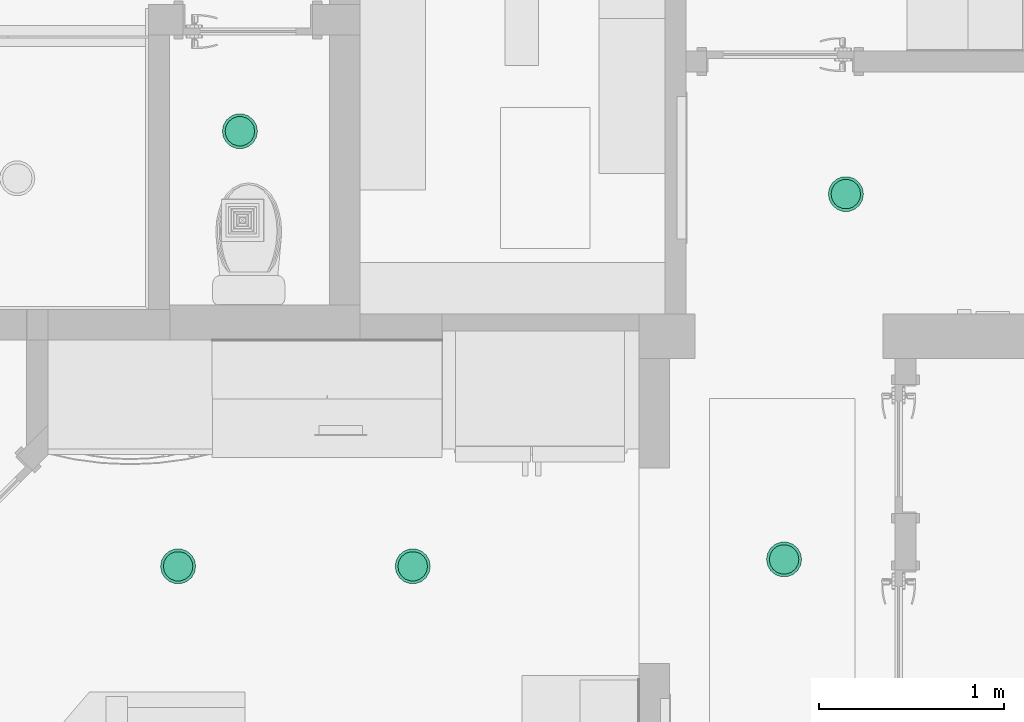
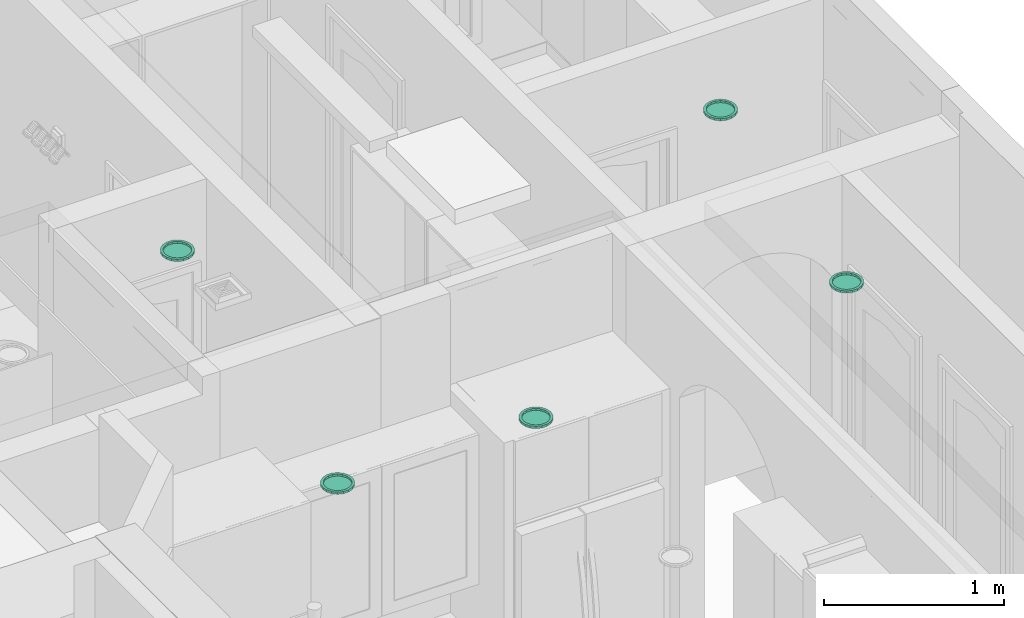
# One storey, part 50 of 77: 5 flow terminals.
"""IFC2X3 building model written with IfcOpenShell, lengths in inches."""

import ifcopenshell
import ifcopenshell.guid

model = None  # the IFC model being written
_history = None  # IfcOwnerHistory: only IFC2X3 demands one
_inside = {}  # id of a spatial element -> (the spatial element, [elements in it])
_under = {}  # id of a project, library or spatial element -> (it, [spatial elements below it])
_declared = {}  # id of a project -> (the project, [libraries it declares])
_typed = {}  # id of a type object -> (the type object, [elements of that type])
_made_of = {}  # id of a material, layer set ... -> (it, [elements and type objects made of it])


def new_model(schema):
    """Start an empty IFC model of exactly this schema.

    Asked for "IFC4X3", IfcOpenShell would pick the latest addendum, in which some entities
    have other attributes; the version numbers below select the first issue.
    IFC2X3 requires an IfcOwnerHistory on every rooted entity: one is made here for all.
    """
    global model, _history
    if schema == "IFC4X3":
        model = ifcopenshell.file(schema_version=(4, 3, 0, 0))
    else:
        model = ifcopenshell.file(schema=schema)
    _inside.clear()
    _under.clear()
    _declared.clear()
    _typed.clear()
    _made_of.clear()
    _history = None
    if model.schema == "IFC2X3":
        org = make("IfcOrganization", Name="unknown")
        user = make(
            "IfcPersonAndOrganization",
            ThePerson=make("IfcPerson", FamilyName="unknown"),
            TheOrganization=org,
        )
        app = make(
            "IfcApplication",
            ApplicationDeveloper=org,
            Version="unknown",
            ApplicationFullName="unknown",
            ApplicationIdentifier="unknown",
        )
        _history = make(
            "IfcOwnerHistory",
            OwningUser=user,
            OwningApplication=app,
            ChangeAction="ADDED",
            CreationDate=0,
        )
    return model


def make(cls, **values):
    """One entity of the class cls with the attributes given. An attribute that is None is left unset."""
    return model.create_entity(
        cls, **{name: value for name, value in values.items() if value is not None}
    )


def entity(cls, *values):
    """Any entity or typed value of the class cls, its attributes in the order of the schema. None: left unset."""
    e = model.create_entity(cls)
    for i, value in enumerate(values):
        if value is not None:
            e[i] = value
    return e


def rooted(cls, **values):
    """An entity with a GlobalId (a new one), such as an element, a storey or a relation."""
    return make(cls, GlobalId=ifcopenshell.guid.new(), OwnerHistory=_history, **values)


def si_unit(unit_type, name, prefix=None):
    """IfcSIUnit, for example si_unit("LENGTHUNIT", "METRE", prefix="MILLI")."""
    return make("IfcSIUnit", UnitType=unit_type, Prefix=prefix, Name=name)


def converted_unit(unit_type, name, factor, base, dimensions=None, offset=None):
    """IfcConversionBasedUnit, such as the inch: factor (a typed value) times the base unit."""
    return make(
        "IfcConversionBasedUnit"
        if offset is None
        else "IfcConversionBasedUnitWithOffset",
        ConversionOffset=offset,
        Dimensions=None
        if dimensions is None
        else entity("IfcDimensionalExponents", *dimensions),
        UnitType=unit_type,
        Name=name,
        ConversionFactor=make(
            "IfcMeasureWithUnit", ValueComponent=factor, UnitComponent=base
        ),
    )


def derived_unit(unit_type, elements):
    """IfcDerivedUnit: a product of units, each with its exponent."""
    return make(
        "IfcDerivedUnit",
        Elements=[
            make("IfcDerivedUnitElement", Unit=unit, Exponent=power)
            for unit, power in elements
        ],
        UnitType=unit_type,
    )


def money_unit(currency):
    """IfcMonetaryUnit."""
    return make("IfcMonetaryUnit", Currency=currency)


def assignment(units):
    """IfcUnitAssignment: the units of a project."""
    return None if units is None else make("IfcUnitAssignment", Units=units)


def point(xyz):
    """IfcCartesianPoint."""
    return None if xyz is None else make("IfcCartesianPoint", Coordinates=xyz)


def direction(xyz):
    """IfcDirection."""
    return None if xyz is None else make("IfcDirection", DirectionRatios=xyz)


def frame(location, z_axis=None, x_axis=None):
    """IfcAxis2Placement3D, a coordinate frame: its origin and axes. An axis left out is left unset."""
    return make(
        "IfcAxis2Placement3D",
        Location=point(location),
        Axis=direction(z_axis),
        RefDirection=direction(x_axis),
    )


def origin_with_axes():
    """The frame at (0, 0, 0) with the z axis (0, 0, 1) and the x axis (1, 0, 0) written out."""
    return frame((0.0, 0.0, 0.0), z_axis=(0.0, 0.0, 1.0), x_axis=(1.0, 0.0, 0.0))


def place(relative_to, where):
    """IfcLocalPlacement: puts the frame where relative to a parent placement (None: the world)."""
    return make(
        "IfcLocalPlacement", PlacementRelTo=relative_to, RelativePlacement=where
    )


def context(
    kind, dimensions, precision=None, world=None, true_north=None, identifier=None
):
    """IfcGeometricRepresentationContext, for example the 3D "Model" context."""
    return make(
        "IfcGeometricRepresentationContext",
        ContextIdentifier=identifier,
        ContextType=kind,
        CoordinateSpaceDimension=dimensions,
        Precision=precision,
        WorldCoordinateSystem=world,
        TrueNorth=true_north,
    )


def subcontext(parent, identifier, kind, view, scale=None):
    """IfcGeometricRepresentationSubContext, for example "Body" below "Model"."""
    return make(
        "IfcGeometricRepresentationSubContext",
        ContextIdentifier=identifier,
        ContextType=kind,
        ParentContext=parent,
        TargetScale=scale,
        TargetView=view,
    )


def project(units=None, contexts=None):
    """IfcProject with its units and contexts."""
    return rooted(
        "IfcProject",
        Name="project",
        RepresentationContexts=contexts,
        UnitsInContext=assignment(units),
    )


def spatial(cls, under=None, at=None, **own):
    """A site, building, storey or space (cls), placed at a placement, below another one or the project."""
    s = rooted(cls, ObjectPlacement=at, **own)
    if under is not None:
        _under.setdefault(under.id(), (under, []))[1].append(s)
    return s


def faces_of(points, faces, orient=None, outer=None):
    """IfcFace entities. A face is a list of loops; a loop is a list of indices into points, from 0.

    orient and outer hold one flag for each loop. By default every Orientation is true, the
    first loop of a face is its IfcFaceOuterBound and the others are IfcFaceBound.
    """
    made = []
    for i, loops in enumerate(faces):
        bounds = []
        for j, loop in enumerate(loops):
            is_outer = j == 0 if outer is None else outer[i][j]
            bounds.append(
                make(
                    "IfcFaceOuterBound" if is_outer else "IfcFaceBound",
                    Bound=make("IfcPolyLoop", Polygon=[points[k] for k in loop]),
                    Orientation=True if orient is None else orient[i][j],
                )
            )
        made.append(make("IfcFace", Bounds=bounds))
    return made


def open_shell(faces, orient=None, outer=None):
    """The faces of one IfcOpenShell. surface_model builds it on its shared points."""
    return ("IfcOpenShell", faces, orient, outer)


def faceted_brep(points, faces, orient=None, outer=None, voids=None):
    """IfcFacetedBrep: a solid bounded by flat faces; with voids (closed shells), ...WithVoids."""
    shared = [point(p) for p in points]
    hull = make("IfcClosedShell", CfsFaces=faces_of(shared, faces, orient, outer))
    if voids is None:
        return make("IfcFacetedBrep", Outer=hull)
    return make(
        "IfcFacetedBrepWithVoids",
        Outer=hull,
        Voids=[
            make(cls, CfsFaces=faces_of(shared, fs, o, b)) for cls, fs, o, b in voids
        ],
    )


def surface_model(cls, points, shells):
    """IfcFaceBasedSurfaceModel or IfcShellBasedSurfaceModel (cls): surfaces that need not close."""
    shared = [point(p) for p in points]
    made = [make(c, CfsFaces=faces_of(shared, fs, o, b)) for c, fs, o, b in shells]
    if cls == "IfcFaceBasedSurfaceModel":
        return make(cls, FbsmFaces=made)
    return make(cls, SbsmBoundary=made)


def shape(context_of_items, identifier, shape_type, items):
    """IfcShapeRepresentation: the items that make up one representation, for example the "Body"."""
    return make(
        "IfcShapeRepresentation",
        ContextOfItems=context_of_items,
        RepresentationIdentifier=identifier,
        RepresentationType=shape_type,
        Items=items,
    )


def source(mapping_origin, context_of_items, identifier, shape_type, items):
    """IfcRepresentationMap: a shape defined once, which mapped items show again and again."""
    return make(
        "IfcRepresentationMap",
        MappingOrigin=mapping_origin,
        MappedRepresentation=shape(context_of_items, identifier, shape_type, items),
    )


def transform(
    local_origin,
    x_axis=None,
    y_axis=None,
    z_axis=None,
    scale=None,
    scale2=None,
    scale3=None,
    uniform=True,
):
    """IfcCartesianTransformationOperator3D, or its non-uniform kind. x_axis, y_axis, z_axis: its Axis1, 2, 3."""
    if uniform:
        return make(
            "IfcCartesianTransformationOperator3D",
            Axis1=direction(x_axis),
            Axis2=direction(y_axis),
            LocalOrigin=point(local_origin),
            Scale=scale,
            Axis3=direction(z_axis),
        )
    return make(
        "IfcCartesianTransformationOperator3DnonUniform",
        Axis1=direction(x_axis),
        Axis2=direction(y_axis),
        LocalOrigin=point(local_origin),
        Scale=scale,
        Axis3=direction(z_axis),
        Scale2=scale2,
        Scale3=scale3,
    )


def mapped(mapping_source, mapping_target):
    """IfcMappedItem: shows the shape of a source again, moved by a transform."""
    return make(
        "IfcMappedItem", MappingSource=mapping_source, MappingTarget=mapping_target
    )


def made_of(thing, what):
    """Note that an element or type object is made of a material, layer set ...; save() writes the relation."""
    if what is not None:
        _made_of.setdefault(what.id(), (what, []))[1].append(thing)
    return thing


def type_object(cls, material=None, **own):
    """A type object (cls), such as IfcWallType, which elements share."""
    return made_of(rooted(cls, **own), material)


def element(
    cls,
    number,
    at=None,
    inside=None,
    cuts=None,
    type_object=None,
    material=None,
    context=None,
    identifier="Body",
    shape_type=None,
    held_by="IfcProductDefinitionShape",
    body=None,
    shapes=None,
    **own,
):
    """One element of the class cls, such as IfcWall. Its Tag is "e" and its number.

    at: its placement. inside: the storey or other place that contains it. cuts: it is an
    opening in that element (IfcRelVoidsElement). A single representation is given by context,
    identifier, shape_type and body (its items); several are given by shapes. held_by: the class
    of the entity that holds the representations. save() writes the other relations.
    """
    e = rooted(cls, Tag="e%d" % number, ObjectPlacement=at, **own)
    if body is not None:
        shapes = [shape(context, identifier, shape_type, body)]
    if shapes is not None:
        e.Representation = make(held_by, Representations=shapes)
    if inside is not None:
        _inside.setdefault(inside.id(), (inside, []))[1].append(e)
    if cuts is not None:
        rooted(
            "IfcRelVoidsElement", RelatingBuildingElement=cuts, RelatedOpeningElement=e
        )
    if type_object is not None:
        _typed.setdefault(type_object.id(), (type_object, []))[1].append(e)
    return made_of(e, material)


def aggregate(whole, parts):
    """IfcRelAggregates: a whole, such as a stair, and the parts it consists of."""
    return rooted("IfcRelAggregates", RelatingObject=whole, RelatedObjects=parts)


def save(model, path):
    """Write the relations noted so far, then the file.

    IfcRelAggregates (storeys below a building ...), IfcRelContainedInSpatialStructure (elements
    in a storey), IfcRelDefinesByType, IfcRelAssociatesMaterial and IfcRelDeclares: one each for
    every whole, place, type object, material and project.
    """
    for whole, parts in _under.values():
        aggregate(whole, parts)
    for where, things in _inside.values():
        rooted(
            "IfcRelContainedInSpatialStructure",
            RelatedElements=things,
            RelatingStructure=where,
        )
    for kind, things in _typed.values():
        rooted("IfcRelDefinesByType", RelatedObjects=things, RelatingType=kind)
    for what, things in _made_of.values():
        rooted("IfcRelAssociatesMaterial", RelatedObjects=things, RelatingMaterial=what)
    for by, libraries in _declared.values():
        rooted("IfcRelDeclares", RelatingContext=by, RelatedDefinitions=libraries)
    model.write(path)


model = new_model("IFC2X3")

# Units and contexts
model_context = context("Model", 3, precision=0.000393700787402, world=origin_with_axes(), true_north=direction((0.0, 1.0)))
body_context = subcontext(model_context, "Body", "Model", "MODEL_VIEW")
ifc_project = project(units=[converted_unit("LENGTHUNIT", "INCH", entity("IfcPositiveLengthMeasure", 0.0254), si_unit("LENGTHUNIT", "METRE"), dimensions=[1, 0, 0, 0, 0, 0, 0]), converted_unit("AREAUNIT", "SQUARE_FOOT", entity("IfcPositiveLengthMeasure", 0.09290304), si_unit("AREAUNIT", "SQUARE_METRE"), dimensions=[2, 0, 0, 0, 0, 0, 0]), si_unit("PLANEANGLEUNIT", "RADIAN"), si_unit("SOLIDANGLEUNIT", "STERADIAN"), money_unit("USD"), converted_unit("TIMEUNIT", "Year", entity("IfcTimeMeasure", 31556926.0), si_unit("TIMEUNIT", "SECOND"), dimensions=[0, 0, 1, 0, 0, 0, 0]), si_unit("MASSUNIT", "GRAM", prefix="KILO"), si_unit("THERMODYNAMICTEMPERATUREUNIT", "DEGREE_CELSIUS"), si_unit("LUMINOUSINTENSITYUNIT", "LUMEN"), si_unit("ENERGYUNIT", "JOULE", prefix="MEGA"), derived_unit("THERMALCONDUCTANCEUNIT", [(si_unit("POWERUNIT", "WATT"), 1), (si_unit("LENGTHUNIT", "METRE"), -1), (si_unit("THERMODYNAMICTEMPERATUREUNIT", "KELVIN"), -1)]), derived_unit("SPECIFICHEATCAPACITYUNIT", [(si_unit("ENERGYUNIT", "JOULE"), 1), (si_unit("MASSUNIT", "GRAM", prefix="KILO"), -1), (si_unit("THERMODYNAMICTEMPERATUREUNIT", "KELVIN"), -1)]), derived_unit("MASSDENSITYUNIT", [(si_unit("MASSUNIT", "GRAM", prefix="KILO"), 1), (si_unit("VOLUMEUNIT", "CUBIC_METRE"), -1)])], contexts=[model_context])

# Site, building, storey
site_placement = place(None, origin_with_axes())
site = spatial("IfcSite", under=ifc_project, at=site_placement, Name="Site", CompositionType="ELEMENT")
building_placement = place(site_placement, origin_with_axes())
building = spatial("IfcBuilding", under=site, at=building_placement, Name="Building", CompositionType="ELEMENT")
storey_placement = place(building_placement, frame((0.0, 0.0, 127.952755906), z_axis=(0.0, 0.0, 1.0), x_axis=(1.0, 0.0, 0.0)))
storey = spatial("IfcBuildingStorey", under=building, at=storey_placement, Name="Second Floor", CompositionType="ELEMENT", Elevation=127.953)

# Flow terminals
light_fixture_type = type_object("IfcLightFixtureType", Name="Recessed Spot 25", PredefinedType="NOTDEFINED")
shared_shape = source(origin_with_axes(), body_context, "Body", "SurfaceModel", [
    faceted_brep([(3.74015748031, 0.0, -0.590551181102), (3.51459838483, 1.27920919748, -0.590551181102), (3.51459838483, 1.27920919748, 0.0), (3.74015748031, 0.0, 0.0), (3.51459838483, -1.27920919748, -0.590551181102), (2.86512685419, -2.40412688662, -0.590551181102), (1.87007874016, -3.23907139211, -0.590551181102), (0.649471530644, -3.6833360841, -0.590551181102), (-0.649471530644, -3.6833360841, -0.590551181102), (-1.87007874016, -3.23907139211, -0.590551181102), (-2.86512685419, -2.40412688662, -0.590551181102), (-3.51459838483, -1.27920919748, -0.590551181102), (-3.74015748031, 0.0, -0.590551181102), (-3.51459838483, 1.27920919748, -0.590551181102), (-2.86512685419, 2.40412688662, -0.590551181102), (-1.87007874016, 3.23907139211, -0.590551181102), (-0.649471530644, 3.6833360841, -0.590551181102), (0.649471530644, 3.6833360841, -0.590551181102), (1.87007874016, 3.23907139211, -0.590551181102), (2.86512685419, 2.40412688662, -0.590551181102), (3.14960629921, 0.0, -0.590551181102), (2.95966179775, 1.07722879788, -0.590551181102), (2.41273840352, 2.02452790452, -0.590551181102), (1.57480314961, 2.72763906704, -0.590551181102), (0.546923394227, 3.1017567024, -0.590551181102), (-0.546923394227, 3.1017567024, -0.590551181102), (-1.57480314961, 2.72763906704, -0.590551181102), (-2.41273840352, 2.02452790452, -0.590551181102), (-2.95966179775, 1.07722879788, -0.590551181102), (-3.14960629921, 0.0, -0.590551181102), (-2.95966179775, -1.07722879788, -0.590551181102), (-2.41273840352, -2.02452790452, -0.590551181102), (-1.57480314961, -2.72763906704, -0.590551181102), (-0.546923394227, -3.1017567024, -0.590551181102), (0.546923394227, -3.1017567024, -0.590551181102), (1.57480314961, -2.72763906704, -0.590551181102), (2.41273840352, -2.02452790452, -0.590551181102), (2.95966179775, -1.07722879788, -0.590551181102), (2.86512685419, 2.40412688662, 0.0), (1.87007874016, 3.23907139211, 0.0), (0.649471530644, 3.6833360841, 0.0), (-0.649471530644, 3.6833360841, 0.0), (-1.87007874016, 3.23907139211, 0.0), (-2.86512685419, 2.40412688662, 0.0), (-3.51459838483, 1.27920919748, 0.0), (-3.74015748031, 0.0, 0.0), (-3.51459838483, -1.27920919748, 0.0), (-2.86512685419, -2.40412688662, 0.0), (-1.87007874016, -3.23907139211, 0.0), (-0.649471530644, -3.6833360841, 0.0), (0.649471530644, -3.6833360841, 0.0), (1.87007874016, -3.23907139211, 0.0), (2.86512685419, -2.40412688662, 0.0), (3.51459838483, -1.27920919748, 0.0), (3.14960629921, 0.0, 0.0), (2.95966179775, -1.07722879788, 0.0), (2.41273840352, -2.02452790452, 0.0), (1.57480314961, -2.72763906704, 0.0), (0.546923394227, -3.1017567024, 0.0), (-0.546923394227, -3.1017567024, 0.0), (-1.57480314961, -2.72763906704, 0.0), (-2.41273840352, -2.02452790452, 0.0), (-2.95966179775, -1.07722879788, 0.0), (-3.14960629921, 0.0, 0.0), (-2.95966179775, 1.07722879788, 0.0), (-2.41273840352, 2.02452790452, 0.0), (-1.57480314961, 2.72763906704, 0.0), (-0.546923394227, 3.1017567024, 0.0), (0.546923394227, 3.1017567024, 0.0), (1.57480314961, 2.72763906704, 0.0), (2.41273840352, 2.02452790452, 0.0), (2.95966179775, 1.07722879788, 0.0)], [[[0, 1, 2, 3]], [[0, 4, 5, 6, 7, 8, 9, 10, 11, 12, 13, 14, 15, 16, 17, 18, 19, 1], [20, 21, 22, 23, 24, 25, 26, 27, 28, 29, 30, 31, 32, 33, 34, 35, 36, 37]], [[1, 19, 38, 2]], [[3, 2, 38, 39, 40, 41, 42, 43, 44, 45, 46, 47, 48, 49, 50, 51, 52, 53], [54, 55, 56, 57, 58, 59, 60, 61, 62, 63, 64, 65, 66, 67, 68, 69, 70, 71]], [[4, 0, 3, 53]], [[5, 4, 53, 52]], [[6, 5, 52, 51]], [[7, 6, 51, 50]], [[8, 7, 50, 49]], [[9, 8, 49, 48]], [[10, 9, 48, 47]], [[11, 10, 47, 46]], [[12, 11, 46, 45]], [[13, 12, 45, 44]], [[14, 13, 44, 43]], [[15, 14, 43, 42]], [[16, 15, 42, 41]], [[17, 16, 41, 40]], [[18, 17, 40, 39]], [[19, 18, 39, 38]], [[21, 20, 54, 71]], [[22, 21, 71, 70]], [[23, 22, 70, 69]], [[24, 23, 69, 68]], [[25, 24, 68, 67]], [[26, 25, 67, 66]], [[27, 26, 66, 65]], [[28, 27, 65, 64]], [[29, 28, 64, 63]], [[30, 29, 63, 62]], [[31, 30, 62, 61]], [[32, 31, 61, 60]], [[33, 32, 60, 59]], [[34, 33, 59, 58]], [[35, 34, 58, 57]], [[36, 35, 57, 56]], [[37, 36, 56, 55]], [[20, 37, 55, 54]]]),
    surface_model("IfcShellBasedSurfaceModel", [(3.14960629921, 0.0, -0.527559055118), (2.95966179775, -1.07722879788, -0.527559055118), (2.41273840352, -2.02452790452, -0.527559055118), (1.57480314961, -2.72763906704, -0.527559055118), (0.546923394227, -3.1017567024, -0.527559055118), (-0.546923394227, -3.1017567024, -0.527559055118), (-1.57480314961, -2.72763906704, -0.527559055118), (-2.41273840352, -2.02452790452, -0.527559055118), (-2.95966179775, -1.07722879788, -0.527559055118), (-3.14960629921, 0.0, -0.527559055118), (-2.95966179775, 1.07722879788, -0.527559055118), (-2.41273840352, 2.02452790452, -0.527559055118), (-1.57480314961, 2.72763906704, -0.527559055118), (-0.546923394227, 3.1017567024, -0.527559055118), (0.546923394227, 3.1017567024, -0.527559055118), (1.57480314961, 2.72763906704, -0.527559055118), (2.41273840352, 2.02452790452, -0.527559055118), (2.95966179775, 1.07722879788, -0.527559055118)], [open_shell([[[0, 1, 2, 3, 4, 5, 6, 7, 8, 9, 10, 11, 12, 13, 14, 15, 16, 17]]])]),
])
for number, where, z_axis, x_axis, name in (
    (1, (539.239523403, 360.174067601, 118.503937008), (0.0, 0.0, 1.0), (1.0, 0.0, 0.0), "L-03"),
    (2, (668.374915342, 361.643392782, 126.0), (0.0, 0.0, 1.0), (1.0, 0.0, 0.0), "L-03"),
    (3, (681.544761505, 439.496501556, 120.094488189), (0.0, 0.0, 1.0), (1.0, 0.0, 0.0), "L-03"),
    (4, (589.239523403, 360.174067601, 118.503937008), (0.0, 0.0, 1.0), (1.0, 0.0, 0.0), "L-03"),
    (5, (552.405915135, 452.896270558, 119.68503937), (0.0, 0.0, 1.0), (1.0, 0.0, 0.0), "L-03"),
):
    element("IfcFlowTerminal", number, at=place(storey_placement, frame(where, z_axis=z_axis, x_axis=x_axis)), inside=storey, type_object=light_fixture_type, Name=name, context=body_context, shape_type="MappedRepresentation", body=[
        mapped(shared_shape, transform((0.0, 0.0, 0.0))),
    ])

save(model, "model.ifc")
